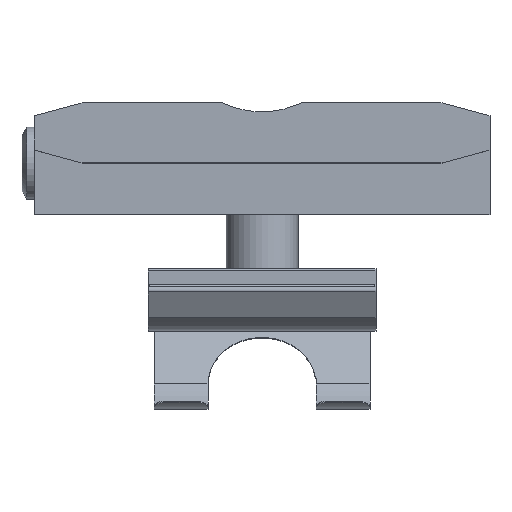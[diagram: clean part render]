
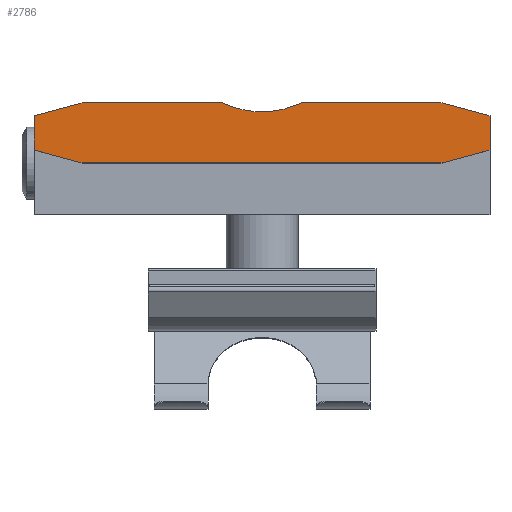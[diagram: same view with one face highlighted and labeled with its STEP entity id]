
A CAD part, top view. The second image highlights one B-rep face of the part: STEP entity #2786.
In plain terms, the highlighted planar face has unit normal (0, 0, 1).
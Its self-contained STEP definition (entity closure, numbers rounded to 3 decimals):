
#58=B_SPLINE_CURVE_WITH_KNOTS('',3,(#4159,#4160,#4161,#4162,#4163,#4164),
 .UNSPECIFIED.,.F.,.F.,(4,1,1,4),(0.025,0.027,
0.029,0.032),.UNSPECIFIED.);
#618=ORIENTED_EDGE('',*,*,#1009,.T.);
#619=ORIENTED_EDGE('',*,*,#1010,.T.);
#620=ORIENTED_EDGE('',*,*,#1008,.T.);
#621=ORIENTED_EDGE('',*,*,#1011,.T.);
#622=ORIENTED_EDGE('',*,*,#1012,.T.);
#623=ORIENTED_EDGE('',*,*,#1013,.T.);
#624=ORIENTED_EDGE('',*,*,#1014,.T.);
#625=ORIENTED_EDGE('',*,*,#1015,.T.);
#626=ORIENTED_EDGE('',*,*,#1016,.T.);
#627=ORIENTED_EDGE('',*,*,#1017,.T.);
#1008=EDGE_CURVE('',#1236,#1239,#1466,.T.);
#1009=EDGE_CURVE('',#1240,#1241,#1467,.T.);
#1010=EDGE_CURVE('',#1241,#1236,#58,.T.);
#1011=EDGE_CURVE('',#1239,#1242,#1468,.T.);
#1012=EDGE_CURVE('',#1242,#1243,#1469,.T.);
#1013=EDGE_CURVE('',#1243,#1244,#1470,.T.);
#1014=EDGE_CURVE('',#1244,#1245,#1471,.T.);
#1015=EDGE_CURVE('',#1245,#1246,#1472,.T.);
#1016=EDGE_CURVE('',#1246,#1247,#1473,.T.);
#1017=EDGE_CURVE('',#1247,#1240,#1474,.T.);
#1236=VERTEX_POINT('',#4148);
#1239=VERTEX_POINT('',#4153);
#1240=VERTEX_POINT('',#4157);
#1241=VERTEX_POINT('',#4158);
#1242=VERTEX_POINT('',#4166);
#1243=VERTEX_POINT('',#4168);
#1244=VERTEX_POINT('',#4170);
#1245=VERTEX_POINT('',#4172);
#1246=VERTEX_POINT('',#4174);
#1247=VERTEX_POINT('',#4176);
#1466=LINE('',#4154,#1700);
#1467=LINE('',#4156,#1701);
#1468=LINE('',#4165,#1702);
#1469=LINE('',#4167,#1703);
#1470=LINE('',#4169,#1704);
#1471=LINE('',#4171,#1705);
#1472=LINE('',#4173,#1706);
#1473=LINE('',#4175,#1707);
#1474=LINE('',#4177,#1708);
#1700=VECTOR('',#3489,1000.);
#1701=VECTOR('',#3492,1000.);
#1702=VECTOR('',#3493,1000.);
#1703=VECTOR('',#3494,1000.);
#1704=VECTOR('',#3495,1000.);
#1705=VECTOR('',#3496,1000.);
#1706=VECTOR('',#3497,1000.);
#1707=VECTOR('',#3498,1000.);
#1708=VECTOR('',#3499,1000.);
#1859=EDGE_LOOP('',(#618,#619,#620,#621,#622,#623,#624,#625,#626,#627));
#2003=FACE_BOUND('',#1859,.T.);
#2114=PLANE('',#2981);
#2786=ADVANCED_FACE('',(#2003),#2114,.T.);
#2981=AXIS2_PLACEMENT_3D('',#4155,#3490,#3491);
#3489=DIRECTION('',(-1.,0.,0.));
#3490=DIRECTION('',(0.,0.,1.));
#3491=DIRECTION('',(1.,0.,0.));
#3492=DIRECTION('',(-1.,0.,0.));
#3493=DIRECTION('',(-0.966,-0.259,0.));
#3494=DIRECTION('',(0.,-1.,0.));
#3495=DIRECTION('',(0.966,-0.259,0.));
#3496=DIRECTION('',(1.,0.,0.));
#3497=DIRECTION('',(0.966,0.259,0.));
#3498=DIRECTION('',(0.,1.,0.));
#3499=DIRECTION('',(-0.966,0.259,0.));
#4148=CARTESIAN_POINT('',(-3.326,5.,7.));
#4153=CARTESIAN_POINT('',(-15.,5.,7.));
#4154=CARTESIAN_POINT('',(15.,5.,7.));
#4155=CARTESIAN_POINT('',(0.,0.,7.));
#4156=CARTESIAN_POINT('',(15.,5.,7.));
#4157=CARTESIAN_POINT('',(15.,5.,7.));
#4158=CARTESIAN_POINT('',(3.326,5.,7.));
#4159=CARTESIAN_POINT('',(3.326,5.,7.));
#4160=CARTESIAN_POINT('',(2.797,4.773,7.));
#4161=CARTESIAN_POINT('',(1.719,4.396,7.));
#4162=CARTESIAN_POINT('',(-0.586,4.102,7.));
#4163=CARTESIAN_POINT('',(-2.278,4.55,7.));
#4164=CARTESIAN_POINT('',(-3.326,5.,7.));
#4165=CARTESIAN_POINT('',(-15.,5.,7.));
#4166=CARTESIAN_POINT('',(-19.,3.928,7.));
#4167=CARTESIAN_POINT('',(-19.,3.928,7.));
#4168=CARTESIAN_POINT('',(-19.,1.072,7.));
#4169=CARTESIAN_POINT('',(-19.,1.072,7.));
#4170=CARTESIAN_POINT('',(-15.,0.,7.));
#4171=CARTESIAN_POINT('',(-15.,0.,7.));
#4172=CARTESIAN_POINT('',(15.,0.,7.));
#4173=CARTESIAN_POINT('',(15.,0.,7.));
#4174=CARTESIAN_POINT('',(19.,1.072,7.));
#4175=CARTESIAN_POINT('',(19.,1.072,7.));
#4176=CARTESIAN_POINT('',(19.,3.928,7.));
#4177=CARTESIAN_POINT('',(19.,3.928,7.));
